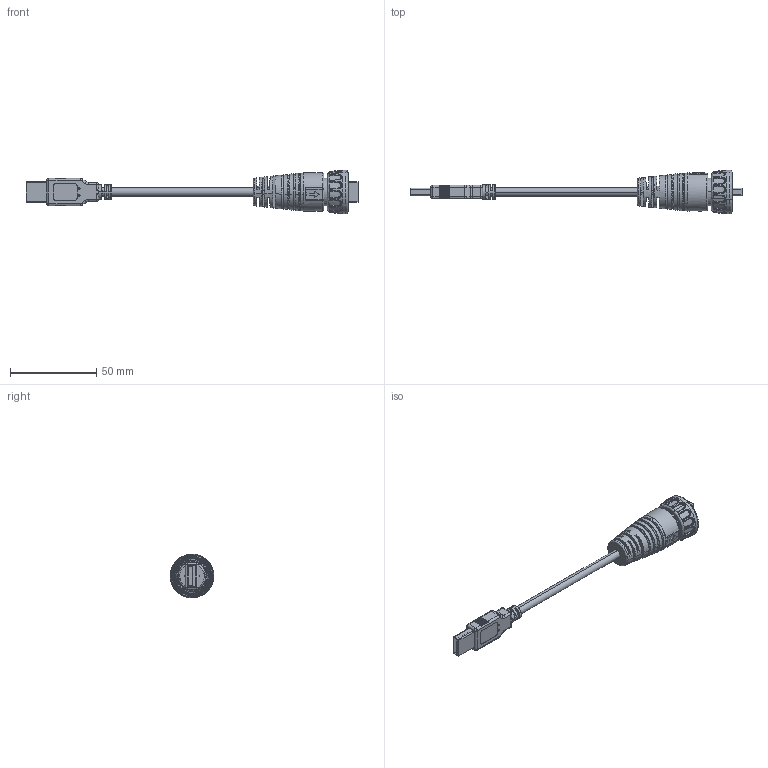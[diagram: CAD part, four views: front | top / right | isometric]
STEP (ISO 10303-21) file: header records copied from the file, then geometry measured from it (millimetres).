
FILE_DESCRIPTION (( 'STEP AP203' ), '1' );
FILE_NAME ('GT118320-0S-XX.STEP', '2014-06-19T02:55:34', ( '' ), ( '' ), 'SwSTEP 2.0', 'SolidWorks 2012', '' );
FILE_SCHEMA (( 'CONFIG_CONTROL_DESIGN' ));
Length unit declared in the file: millimetre
Products named in the file (11): GT118320-0S-XX; 70000-X7101; CABLE; Plug; plug-1; GT116320-01-XX; 70116-37101; 67116-00110; 66153-30010_06; MALE CONNECTOR(FRAM); 69116-34101
Assembly tree (10 placements, depth 3):
  GT118320-0S-XX
    GT116320-01-XX
      69116-34101
      MALE CONNECTOR(FRAM)
      66153-30010_06
      67116-00110
      70116-37101
    70000-X7101
      plug-1
      Plug
      CABLE
Bounding box: 193 x 25.4 x 25.4 mm (x, y, z)
Volume: 29220.3 mm3; surface area: 16261.6 mm2
Topology: 8 solids, 8 shells, 849 faces, 2218 edges, 1373 vertices
Faces by surface type: bspline 349, plane 285, cylinder 142, cone 33, torus 32, sphere 8
Entity records: 44828 total; most frequent: CARTESIAN_POINT 26145, ORIENTED_EDGE 4396, DIRECTION 2564, EDGE_CURVE 2198, VERTEX_POINT 1373, AXIS2_PLACEMENT_3D 915, EDGE_LOOP 885, B_SPLINE_CURVE_WITH_KNOTS 854
